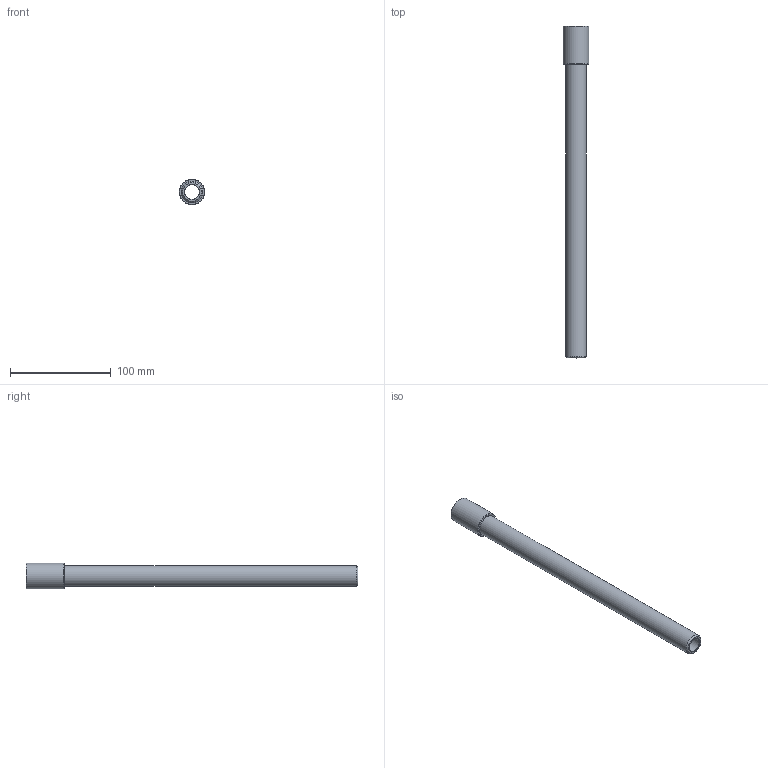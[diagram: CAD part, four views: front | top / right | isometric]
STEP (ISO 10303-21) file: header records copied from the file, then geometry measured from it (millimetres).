
FILE_DESCRIPTION(/* description */ (''),/* implementation_level */ '2;1');
FILE_NAME(/* name */ 'C:/Users/drich/Desktop/EP12X13 v1.step',/* time_stamp */ '2019-11-18T14:47:14-06:00',/* author */ (''),/* organization */ (''),/* preprocessor_version */ 'ST-DEVELOPER v18',/* originating_system */ 'Autodesk Translation Framework v8.12.0.6',/* authorisation */ '');
FILE_SCHEMA (('AUTOMOTIVE_DESIGN { 1 0 10303 214 3 1 1 }'));
Length unit declared in the file: inch
Products named in the file (2): EP12X13; EP12X4
Assembly tree (1 placements, depth 2):
  EP12X13
    EP12X4
Bounding box: 25.4 x 330.2 x 25.4 mm (x, y, z)
Volume: 63056.6 mm3; surface area: 37913.5 mm2
Topology: 1 solids, 1 shells, 23 faces, 55 edges, 37 vertices
Faces by surface type: plane 11, cone 7, cylinder 5
Full cylindrical faces by diameter (mm): 14.275 x1, 17.145 x1, 18.901 x1, 20.813 x1, 25.4 x1
Entity records: 740 total; most frequent: CARTESIAN_POINT 132, DIRECTION 124, ORIENTED_EDGE 110, EDGE_CURVE 55, AXIS2_PLACEMENT_3D 50, VERTEX_POINT 37, EDGE_LOOP 28, LINE 24
